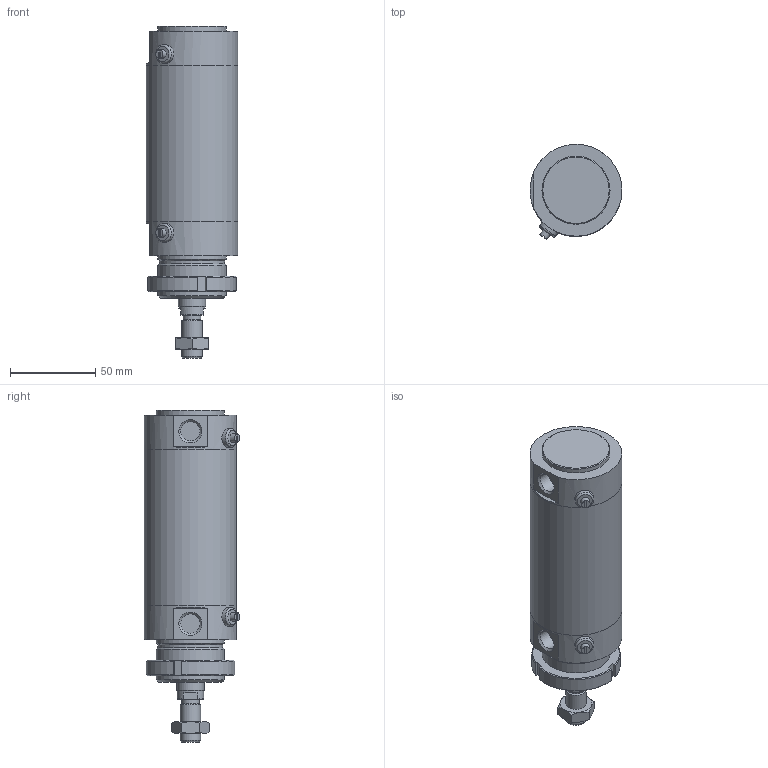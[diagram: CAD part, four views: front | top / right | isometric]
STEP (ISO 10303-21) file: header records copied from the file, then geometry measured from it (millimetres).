
FILE_DESCRIPTION(/* description */ (''),/* implementation_level */ '2;1');
FILE_NAME(/* name */ 'I:\Area Tecnica\Documenti\A-Manieri\_Inventor\12X\12X#D_###_####_#_#\12XBD_050_0050_#_#.stp',/* time_stamp */ '2015-05-04T15:12:33+02:00',/* author */ ('maniean1'),/* organization */ ('Pneumax S.p.A.'),/* preprocessor_version */ 'ST-DEVELOPER v15.2',/* originating_system */ 'Autodesk Inventor 2014',/* authorisation */ '');
FILE_SCHEMA (('AUTOMOTIVE_DESIGN { 1 0 10303 214 3 1 1 }'));
Length unit declared in the file: millimetre
Products named in the file (7): C1250_619-0050; 12X50_606; S12X50_0050; 12X_50_11; 12X50_612; G12X_050_05; 12XBD_050_0050_#_#
Bounding box: 54 x 55.88 x 195 mm (x, y, z)
Volume: 262569.6 mm3; surface area: 74698.2 mm2
Topology: 6 solids, 6 shells, 99 faces, 217 edges, 140 vertices
Faces by surface type: plane 53, cylinder 25, cone 19, torus 2
Full cylindrical faces by diameter (mm): 5 x2, 10.2 x1, 11 x2, 11.4 x2, 12 x2, 14 x1, 15.6 x1, 16 x1, 38.2 x1, 40 x4, 50 x2, 54 x3
Entity records: 2667 total; most frequent: CARTESIAN_POINT 540, DIRECTION 444, ORIENTED_EDGE 348, AXIS2_PLACEMENT_3D 188, EDGE_CURVE 174, EDGE_LOOP 152, VERTEX_POINT 132, ADVANCED_FACE 99
